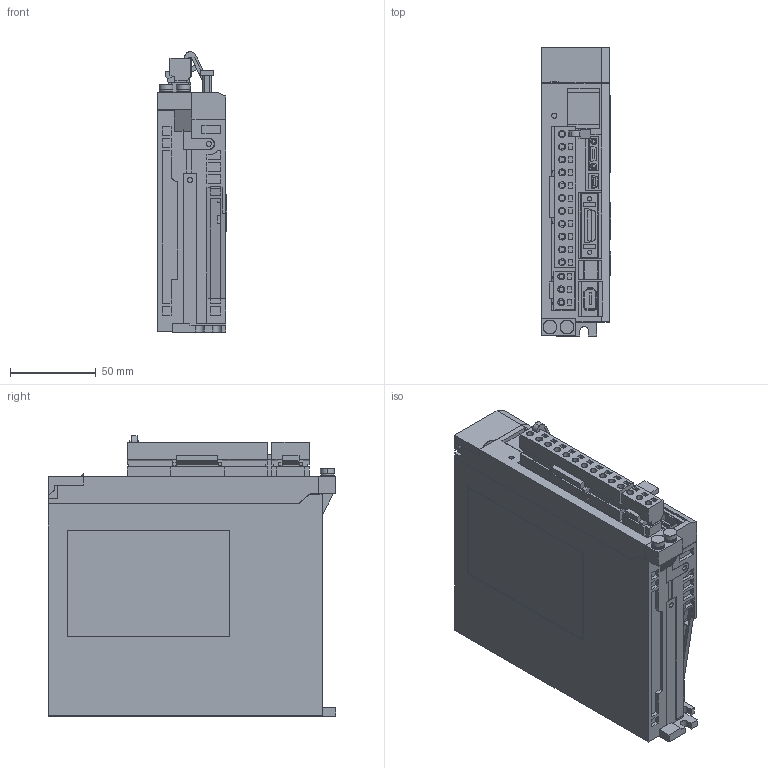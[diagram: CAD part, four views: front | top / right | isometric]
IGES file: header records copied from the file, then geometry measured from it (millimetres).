
Start section: SolidWorks IGES file using analytic representation for surfaces
Global section: file name: D:\YASKAWA\sgd7s_1r6ae0a.IGS; native system: SolidWorks 2006 by SolidWorks Corporation; preprocessor: SolidWorks 2006 by SolidWorks Corporation; author: yamanouchi; date: 131227.154423; units: millimetre
Bounding box: 40.5 x 168 x 163.84 mm (x, y, z)
Surface area: 132806.7 mm2 (no closed solid volume)
Topology: 0 solids, 0 shells, 1700 faces, 12665 edges, 12665 vertices
Faces by surface type: bspline 1556, revolution 144
